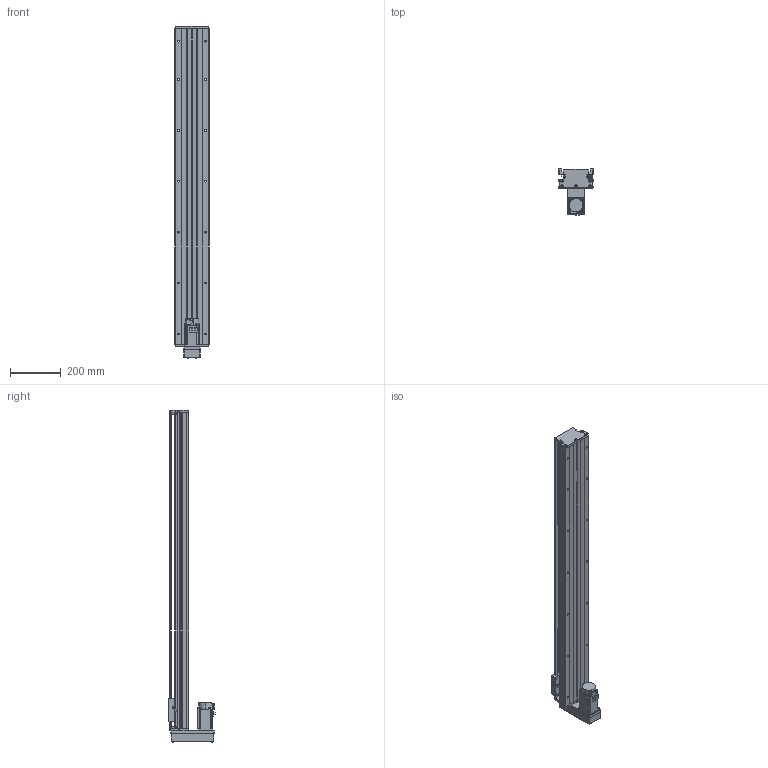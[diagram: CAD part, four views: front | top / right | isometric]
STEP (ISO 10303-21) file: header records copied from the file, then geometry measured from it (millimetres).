
FILE_DESCRIPTION (( 'STEP AP203' ), '1' );
FILE_NAME ('KTH130-1100-BM-M40-C4.step', '2023-06-30T04:03:28', ( '微软用户' ), ( '微软中国' ), 'SwSTEP 2.0', 'SolidWorks 2020', '' );
FILE_SCHEMA (( 'CONFIG_CONTROL_DESIGN' ));
Length unit declared in the file: millimetre
Products named in the file (19): GBT70.1 M5℅16; す晦芛蹟隊 M3℅5; GBT 70.2-M3¡Á5_M3¡Á6; GBT 70.3-M3℅8; GTH14-001_1100; CTHA60-017; HG-KN43J-S100; KTH130-002_KTH130-002; EE_SX911P_R; GBT 70.2-M4¡Á35_M4¡Á35; KTH130-004; CTHA60-016; GTH14-015-2_CTHA86-015-2; KTH130-005; GBT 70.1-M3℅5; KTH130-1100-BM-M40-C4; GTH14-033; GB1155-6X6; GBT77-2000 M3×3
Assembly tree (53 placements, depth 2):
  KTH130-1100-BM-M40-C4
    GTH14-001_1100
    KTH130-002_KTH130-002
    KTH130-004
    KTH130-005
    GB1155-6X6  x2
    GBT70.1 M5℅16  x10
    GBT 70.2-M3¡Á5_M3¡Á6  x4
    CTHA60-017  x3
    EE_SX911P_R  x3
    CTHA60-016  x2
    GBT 70.1-M3℅5  x6
    GBT77-2000 M3×3  x6
    す晦芛蹟隊 M3℅5  x2
    GBT 70.3-M3℅8  x4
    HG-KN43J-S100
    GBT 70.2-M4¡Á35_M4¡Á35  x4
    GTH14-015-2_CTHA86-015-2
    GTH14-033
Bounding box: 135 x 181.8 x 1304.2 mm (x, y, z)
Volume: 7200237.5 mm3; surface area: 1128310.5 mm2
Topology: 56 solids, 56 shells, 2243 faces, 5414 edges, 3374 vertices
Faces by surface type: plane 1201, cylinder 628, cone 290, torus 100, sphere 24
Entity records: 41174 total; most frequent: CARTESIAN_POINT 8734, DIRECTION 6159, ORIENTED_EDGE 6028, EDGE_CURVE 3014, AXIS2_PLACEMENT_3D 2130, VERTEX_POINT 1927, VECTOR 1899, LINE 1899
